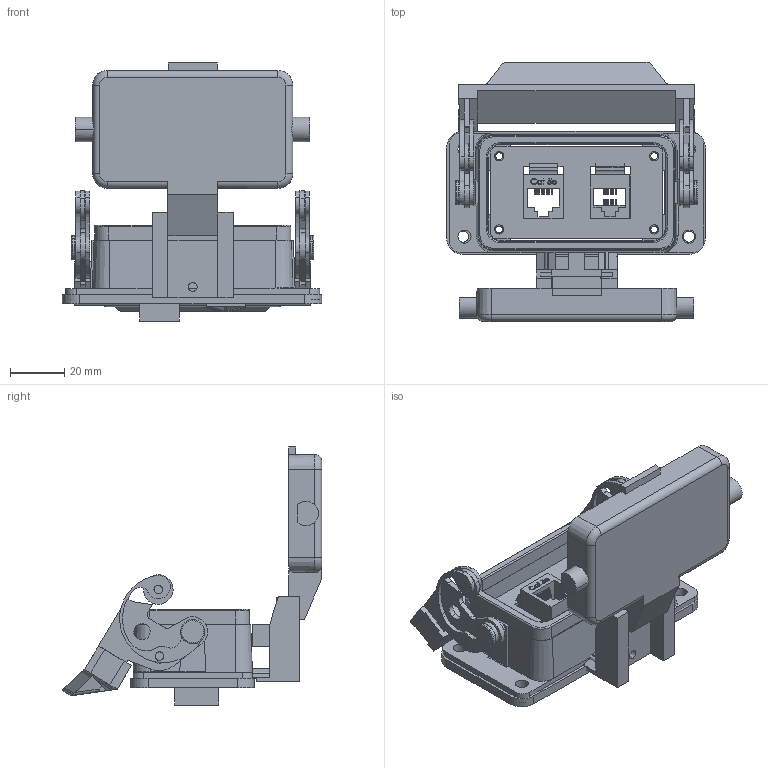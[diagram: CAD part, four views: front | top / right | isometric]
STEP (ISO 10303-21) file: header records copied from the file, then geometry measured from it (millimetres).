
FILE_DESCRIPTION (( 'STEP AP214' ), '1' );
FILE_NAME ('RJ11-RJ45-10LS.STEP', '2006-07-14T17:32:59', ( 'Mencom User' ), ( 'Mencom Corporation' ), 'SwSTEP 2.0', 'SolidWorks 2006104', '' );
FILE_SCHEMA (( 'AUTOMOTIVE_DESIGN' ));
Length unit declared in the file: inch
Products named in the file (1): RJ11-RJ45-10LS
Bounding box: 95.5 x 95.61 x 95.05 mm (x, y, z)
Surface area: 57347.4 mm2 (no closed solid volume)
Topology: 0 solids, 33 shells, 633 faces, 2313 edges, 1679 vertices
Faces by surface type: plane 384, cylinder 199, torus 26, cone 14, bspline 10
Entity records: 35276 total; most frequent: CARTESIAN_POINT 7637, DIRECTION 3901, ORIENTED_EDGE 3690, EDGE_CURVE 2313, VERTEX_POINT 1679, VECTOR 1539, LINE 1539, AXIS2_PLACEMENT_3D 1181
